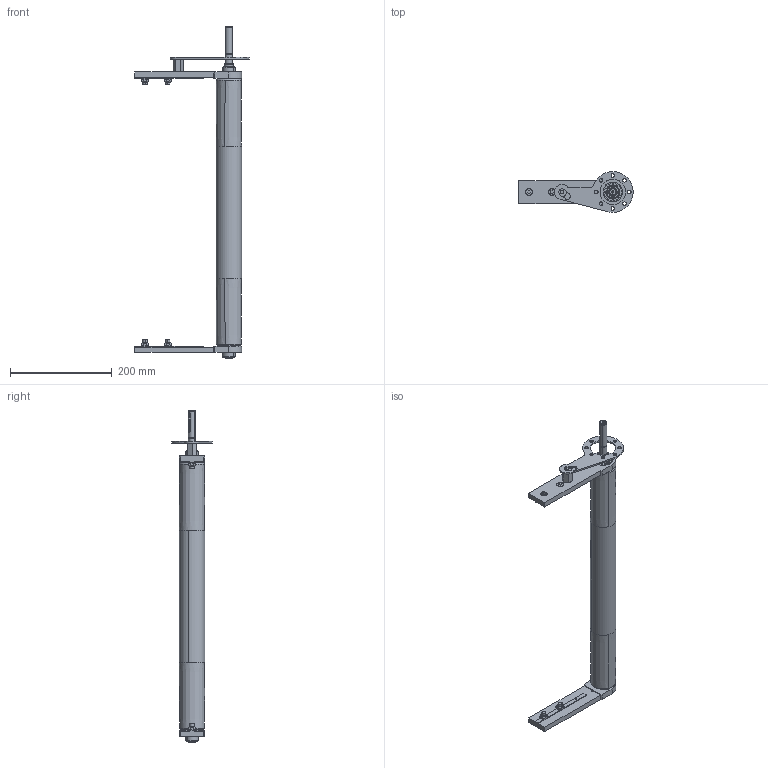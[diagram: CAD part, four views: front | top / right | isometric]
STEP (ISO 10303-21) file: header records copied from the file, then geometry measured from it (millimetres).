
FILE_DESCRIPTION (( 'STEP AP203' ), '1' );
FILE_NAME ('084.050.KD.30.500.STEP', '2019-07-29T10:07:13', ( '' ), ( '' ), 'SwSTEP 2.0', 'SolidWorks 2018', '' );
FILE_SCHEMA (( 'CONFIG_CONTROL_DESIGN' ));
Length unit declared in the file: millimetre
Products named in the file (12): 084.807.005; 084.807.003_084.807.003; 084.807.002_084.807.002; 084.802.027; 084.302.000 DADI ALUSIC 13x13_084.302.004; 084.810.001; 084.811.004; 084.815.174_Default<A macchina>; 084.050.KD.30.500; 084.811.001; 084.802.017_084.802.017; 084.301.000 VITI ALUSIC_084.301.003
Assembly tree (19 placements, depth 2):
  084.050.KD.30.500
    084.807.002_084.807.002
    084.807.003_084.807.003
    084.802.017_084.802.017  x2
    084.811.004
    084.815.174_Default<A macchina>
    084.810.001  x2
    084.811.001
    084.802.027
    084.807.005
    084.301.000 VITI ALUSIC_084.301.003  x4
    084.302.000 DADI ALUSIC 13x13_084.302.004  x4
Bounding box: 225 x 80 x 653.5 mm (x, y, z)
Volume: 629526.7 mm3; surface area: 368275.5 mm2
Topology: 21 solids, 23 shells, 621 faces, 1547 edges, 1000 vertices
Faces by surface type: plane 258, cylinder 225, torus 68, cone 62, sphere 8
Entity records: 14996 total; most frequent: CARTESIAN_POINT 2657, DIRECTION 2456, ORIENTED_EDGE 2162, EDGE_CURVE 1081, AXIS2_PLACEMENT_3D 977, VERTEX_POINT 702, CIRCLE 528, EDGE_LOOP 509
